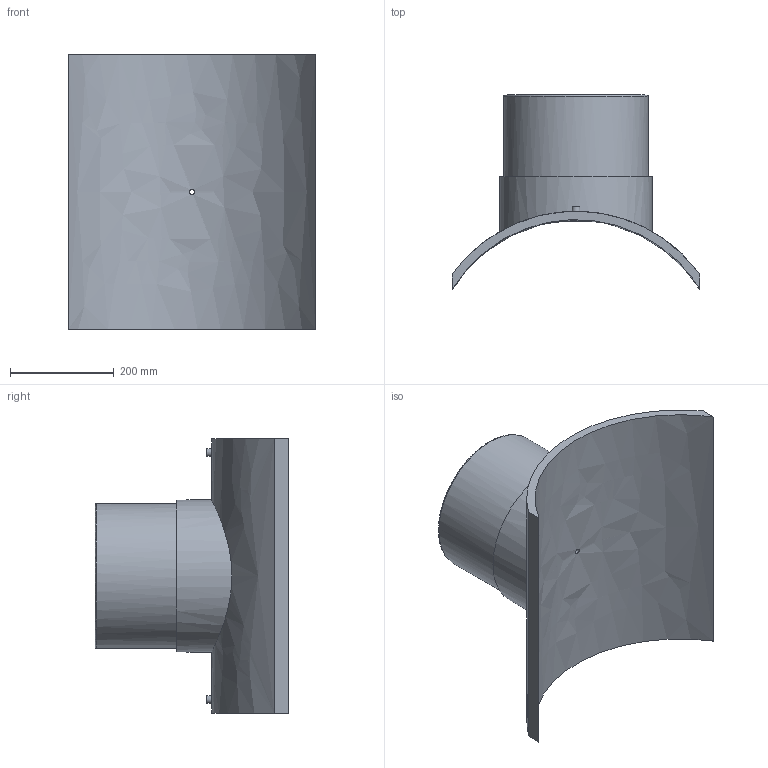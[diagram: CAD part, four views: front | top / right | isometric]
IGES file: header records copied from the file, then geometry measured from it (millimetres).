
Global section: file name: 495803560280T; native system: Autodesk Inventor 2019; preprocessor: unknown; author: KIM; date: 20240404.115259; units: millimetre
Bounding box: 477 x 374.31 x 530 mm (x, y, z)
Volume: 10623058.3 mm3; surface area: 1037712.5 mm2
Topology: 1 solids, 1 shells, 29 faces, 60 edges, 43 vertices
Faces by surface type: bspline 29
